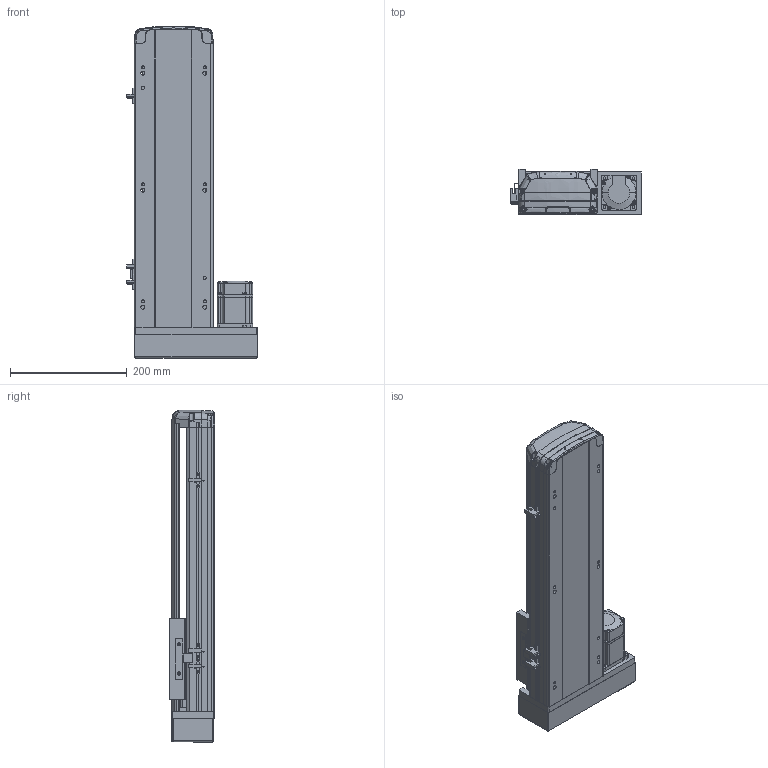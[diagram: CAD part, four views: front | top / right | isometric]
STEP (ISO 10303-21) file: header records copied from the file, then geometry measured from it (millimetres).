
FILE_DESCRIPTION (( 'STEP AP214' ), '1' );
FILE_NAME ('RTH14-XX-300-R-M20-C4.STEP', '2025-10-24T09:51:45', ( 'Microsoft' ), ( 'Microsoft' ), 'SwSTEP 2.0', 'SolidWorks 2018', '' );
FILE_SCHEMA (( 'AUTOMOTIVE_DESIGN' ));
Length unit declared in the file: millimetre
Products named in the file (10): N_OMRON EE-SX672 传感器^RTH14-XX-XX-R-M20-C4; N_RTH13-L-012感应片（外置）^RTH14-XX-XX-R-M20-C4; N_RTH14-R-004-SFSR16賑釱^RTH14-XX-XX-R-M20-C4; N_RTH14-M-011P菁釱^RTH14-XX-XX-R-M20-C4; N_RTH13-L-018 裔赽^RTH14-XX-XX-R-M20-C4; N_MSMD022P1AA_200W^RTH14-XX-XX-R-M20-C4; N_RTH14-GY-001P^RTH14-XX-XX-R-M20-C4; N_RTH13-L-008-P20 萇儂啣酘蛌殏^RTH14-XX-XX-R-M20-C4; RTH14-XX-300-R-M20-C4; N_RTH14-M-007P奻裔^RTH14-XX-XX-R-M20-C4
Assembly tree (11 placements, depth 2):
  RTH14-XX-300-R-M20-C4
    N_RTH14-M-011P菁釱^RTH14-XX-XX-R-M20-C4
    N_RTH14-M-007P奻裔^RTH14-XX-XX-R-M20-C4
    N_MSMD022P1AA_200W^RTH14-XX-XX-R-M20-C4
    N_RTH13-L-008-P20 萇儂啣酘蛌殏^RTH14-XX-XX-R-M20-C4
    N_RTH13-L-018 裔赽^RTH14-XX-XX-R-M20-C4
    N_RTH13-L-012感应片（外置）^RTH14-XX-XX-R-M20-C4
    N_OMRON EE-SX672 传感器^RTH14-XX-XX-R-M20-C4  x3
    N_RTH14-R-004-SFSR16賑釱^RTH14-XX-XX-R-M20-C4
    N_RTH14-GY-001P^RTH14-XX-XX-R-M20-C4
Bounding box: 224 x 78.03 x 567.73 mm (x, y, z)
Volume: 2800785 mm3; surface area: 678679.8 mm2
Topology: 10 solids, 12 shells, 1841 faces, 5146 edges, 3373 vertices
Faces by surface type: plane 985, cylinder 461, bspline 346, cone 45, torus 4
Entity records: 56029 total; most frequent: CARTESIAN_POINT 22825, ORIENTED_EDGE 7349, DIRECTION 5832, EDGE_CURVE 3680, VERTEX_POINT 2409, LINE 2126, VECTOR 2126, AXIS2_PLACEMENT_3D 1853
